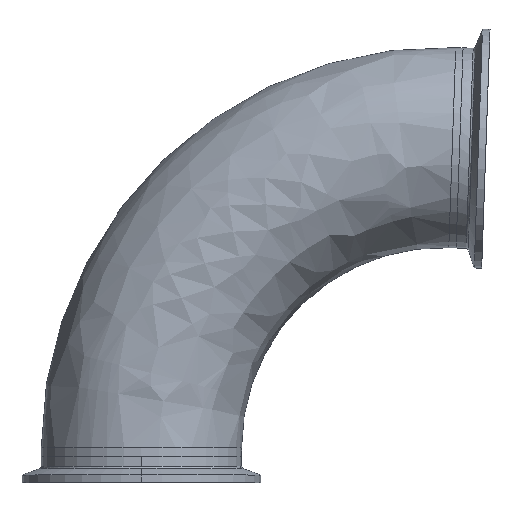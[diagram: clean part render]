
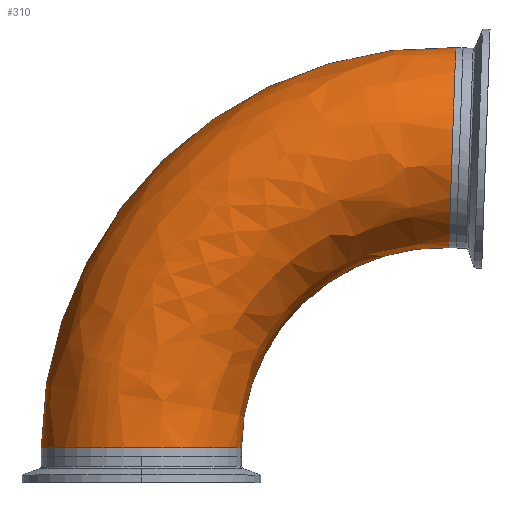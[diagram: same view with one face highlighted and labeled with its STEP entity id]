
A CAD part, top view. The second image highlights one B-rep face of the part: STEP entity #310.
In plain terms, the highlighted free-form (B-spline) face has degree [3, 3] with [4, 4] control points.
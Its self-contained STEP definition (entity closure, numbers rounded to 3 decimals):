
#16 = VERTEX_POINT ( 'NONE', #465 ) ;
#85 = CARTESIAN_POINT ( 'NONE',  ( 38.1, 3.216, 0. ) ) ;
#113 = VERTEX_POINT ( 'NONE', #2385 ) ;
#268 = EDGE_LOOP ( 'NONE', ( #911, #3216, #2090, #1033 ) ) ;
#310 = ADVANCED_FACE ( 'NONE', ( #2117 ), #3274, .T. ) ;
#345 = CARTESIAN_POINT ( 'NONE',  ( 38.1, 49.098, 0. ) ) ;
#367 = CARTESIAN_POINT ( 'NONE',  ( 116.959, 79.369, 76.2 ) ) ;
#385 = AXIS2_PLACEMENT_3D ( 'NONE', #2346, #817, #2589 ) ;
#400 = EDGE_CURVE ( 'NONE', #16, #113, #694, .T. ) ;
#465 = CARTESIAN_POINT ( 'NONE',  ( 116.959, 79.369, 0. ) ) ;
#610 = CARTESIAN_POINT ( 'NONE',  ( 38.1, 49.098, 76.2 ) ) ;
#694 = CIRCLE ( 'NONE', #2357, 38.1 ) ;
#817 = DIRECTION ( 'NONE',  ( 0., 0., -1. ) ) ;
#911 = ORIENTED_EDGE ( 'NONE', *, *, #1541, .T. ) ;
#1033 = ORIENTED_EDGE ( 'NONE', *, *, #2542, .F. ) ;
#1059 = CIRCLE ( 'NONE', #1087, 76.2 ) ;
#1087 = AXIS2_PLACEMENT_3D ( 'NONE', #3007, #2402, #3337 ) ;
#1144 = CARTESIAN_POINT ( 'NONE',  ( 119.619, 155.523, 76.2 ) ) ;
#1273 = VERTEX_POINT ( 'NONE', #85 ) ;
#1333 = EDGE_CURVE ( 'NONE', #1273, #16, #1059, .T. ) ;
#1348 = CIRCLE ( 'NONE', #2492, 38.1 ) ;
#1406 = CARTESIAN_POINT ( 'NONE',  ( -38.1, 94.98, 76.2 ) ) ;
#1541 = EDGE_CURVE ( 'NONE', #3041, #1273, #1348, .T. ) ;
#1656 = CARTESIAN_POINT ( 'NONE',  ( 119.619, 155.523, 0. ) ) ;
#1775 = DIRECTION ( 'NONE',  ( -0.999, 0.035, 0. ) ) ;
#1891 = CARTESIAN_POINT ( 'NONE',  ( 38.1, 3.216, 76.2 ) ) ;
#2020 = DIRECTION ( 'NONE',  ( 0.035, 0.999, 0. ) ) ;
#2090 = ORIENTED_EDGE ( 'NONE', *, *, #400, .T. ) ;
#2117 = FACE_OUTER_BOUND ( 'NONE', #268, .T. ) ;
#2132 = CARTESIAN_POINT ( 'NONE',  ( 38.1, 3.216, 0. ) ) ;
#2261 = CARTESIAN_POINT ( 'NONE',  ( -38.1, 3.216, 0. ) ) ;
#2346 = CARTESIAN_POINT ( 'NONE',  ( 114.3, 3.216, 0. ) ) ;
#2357 = AXIS2_PLACEMENT_3D ( 'NONE', #2875, #1775, #2020 ) ;
#2385 = CARTESIAN_POINT ( 'NONE',  ( 119.619, 155.523, 0. ) ) ;
#2397 = CARTESIAN_POINT ( 'NONE',  ( 71.105, 80.97, 76.2 ) ) ;
#2402 = DIRECTION ( 'NONE',  ( 0., 0., -1. ) ) ;
#2492 = AXIS2_PLACEMENT_3D ( 'NONE', #2916, #2901, #2883 ) ;
#2522 = CIRCLE ( 'NONE', #385, 152.4 ) ;
#2542 = EDGE_CURVE ( 'NONE', #3041, #113, #2522, .T. ) ;
#2589 = DIRECTION ( 'NONE',  ( -1., 0., 0. ) ) ;
#2648 = CARTESIAN_POINT ( 'NONE',  ( 27.91, 158.725, 76.2 ) ) ;
#2763 = CARTESIAN_POINT ( 'NONE',  ( -38.1, 94.98, 0. ) ) ;
#2875 = CARTESIAN_POINT ( 'NONE',  ( 118.289, 117.446, 0. ) ) ;
#2883 = DIRECTION ( 'NONE',  ( -1., 0., 0. ) ) ;
#2901 = DIRECTION ( 'NONE',  ( 0., 1., 0. ) ) ;
#2916 = CARTESIAN_POINT ( 'NONE',  ( 0., 3.216, 0. ) ) ;
#2922 = CARTESIAN_POINT ( 'NONE',  ( -38.1, 3.216, 76.2 ) ) ;
#3007 = CARTESIAN_POINT ( 'NONE',  ( 114.3, 3.216, 0. ) ) ;
#3041 = VERTEX_POINT ( 'NONE', #3317 ) ;
#3157 = CARTESIAN_POINT ( 'NONE',  ( 71.105, 80.97, 0. ) ) ;
#3184 = CARTESIAN_POINT ( 'NONE',  ( 116.959, 79.369, 0. ) ) ;
#3202 = CARTESIAN_POINT ( 'NONE',  ( 27.91, 158.725, 0. ) ) ;
#3216 = ORIENTED_EDGE ( 'NONE', *, *, #1333, .T. ) ;
#3274 =( BOUNDED_SURFACE ( )  B_SPLINE_SURFACE ( 3, 3, ( 
 ( #2261, #2763, #3202, #1656 ),
 ( #2922, #1406, #2648, #1144 ),
 ( #1891, #610, #2397, #367 ),
 ( #2132, #345, #3157, #3184 ) ),
 .UNSPECIFIED., .F., .F., .F. ) 
 B_SPLINE_SURFACE_WITH_KNOTS ( ( 4, 4 ),
 ( 4, 4 ),
 ( 0., 1. ),
 ( 0., 1. ),
 .UNSPECIFIED. ) 
 GEOMETRIC_REPRESENTATION_ITEM ( )  RATIONAL_B_SPLINE_SURFACE ( (
 ( 1., 0.796, 0.796, 1.),
 ( 0.333, 0.265, 0.265, 0.333),
 ( 0.333, 0.265, 0.265, 0.333),
 ( 1., 0.796, 0.796, 1.) ) ) 
 REPRESENTATION_ITEM ( '' )  SURFACE ( )  );
#3317 = CARTESIAN_POINT ( 'NONE',  ( -38.1, 3.216, 0. ) ) ;
#3337 = DIRECTION ( 'NONE',  ( -1., 0., 0. ) ) ;
